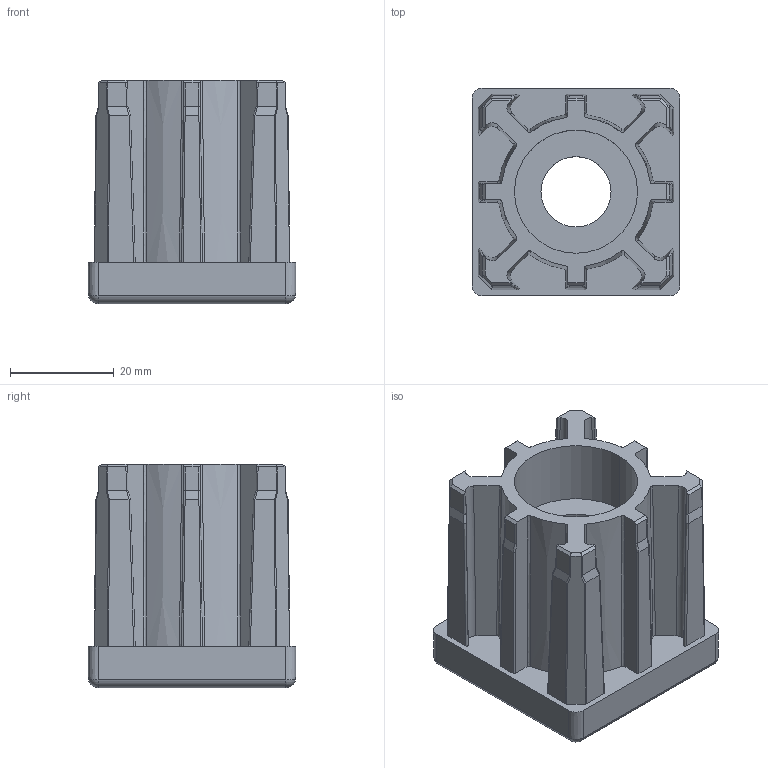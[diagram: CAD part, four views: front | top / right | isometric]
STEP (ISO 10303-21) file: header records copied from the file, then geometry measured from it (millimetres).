
FILE_DESCRIPTION(('STEP AP214'),'1');
FILE_NAME('P41605','2017-01-03T14:20:58',('dentellad'),(' '),'Spatial InterOp 3D',' ',' ');
FILE_SCHEMA(('automotive_design'));
Length unit declared in the file: millimetre
Products named in the file (1): 1
Bounding box: 40 x 40 x 43 mm (x, y, z)
Volume: 33802.6 mm3; surface area: 14266.9 mm2
Topology: 1 solids, 1 shells, 665 faces, 1916 edges, 1260 vertices
Faces by surface type: plane 531, cylinder 102, bspline 16, cone 12, sphere 4
Entity records: 39421 total; most frequent: CARTESIAN_POINT 7735, ORIENTED_EDGE 3824, DIRECTION 2939, STYLED_ITEM 2578, PRESENTATION_STYLE_ASSIGNMENT 2578, COLOUR_RGB 2578, EDGE_CURVE 1912, CURVE_STYLE 1912
